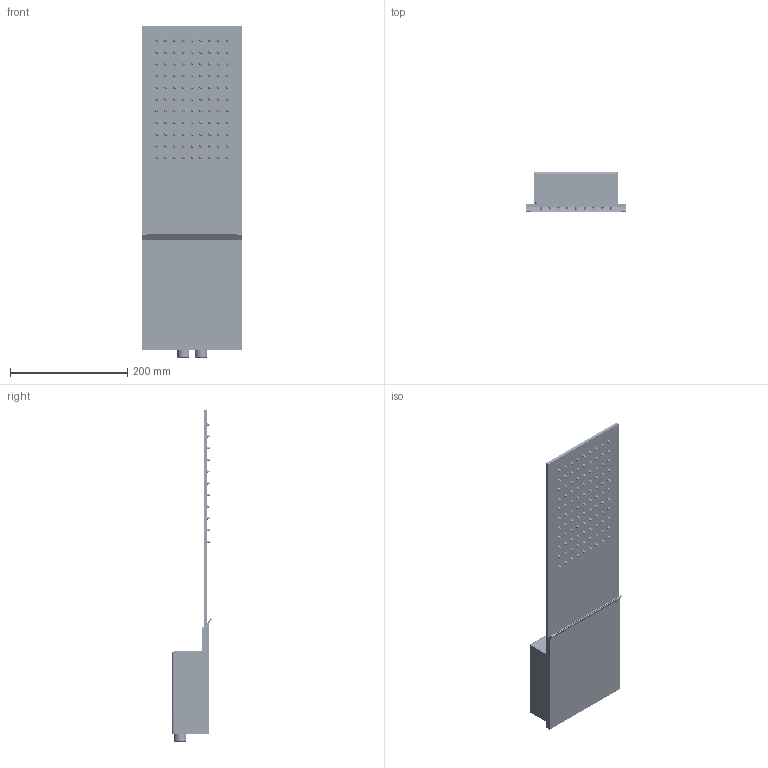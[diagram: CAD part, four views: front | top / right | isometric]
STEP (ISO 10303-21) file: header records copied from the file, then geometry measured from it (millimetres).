
FILE_DESCRIPTION((''),'2;1');
FILE_NAME('F2346_FILE_3D','2014-08-07T',('ivanv'),(''),'PRO/ENGINEER BY PARAMETRIC TECHNOLOGY CORPORATION, 2012130','PRO/ENGINEER BY PARAMETRIC TECHNOLOGY CORPORATION, 2012130','');
FILE_SCHEMA(('CONFIG_CONTROL_DESIGN'));
Products named in the file (1): F2346_FILE_3D
Bounding box: 170 x 68.74 x 566.46 mm (x, y, z)
Volume: 578437.1 mm3; surface area: 554366.7 mm2
Topology: 2 solids, 5 shells, 3513 faces, 7288 edges, 4219 vertices
Faces by surface type: torus 1603, cylinder 983, plane 609, cone 312, bspline 4, sphere 2
Entity records: 96901 total; most frequent: DIRECTION 19608, CARTESIAN_POINT 18324, ORIENTED_EDGE 14572, AXIS2_PLACEMENT_3D 8992, EDGE_CURVE 7286, CIRCLE 5483, VERTEX_POINT 4219, EDGE_LOOP 3955
